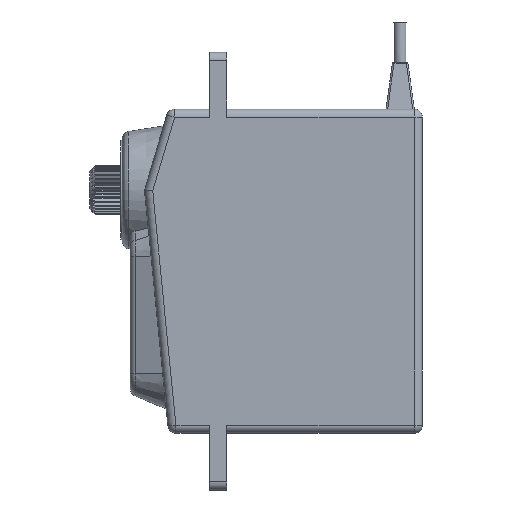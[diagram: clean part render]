
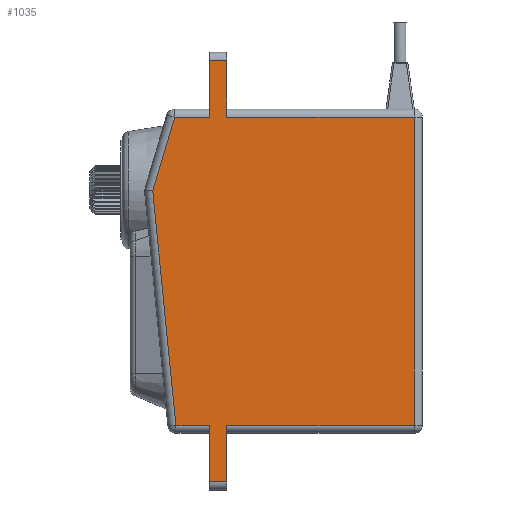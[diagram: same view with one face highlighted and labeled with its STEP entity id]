
A CAD part, left-side view. The second image highlights one B-rep face of the part: STEP entity #1035.
In plain terms, the highlighted planar face has unit normal (-1, 0, 0).
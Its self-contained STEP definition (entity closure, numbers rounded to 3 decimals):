
#1035=ADVANCED_FACE('',(#2113),#2115,.T.);
#2113=FACE_OUTER_BOUND('',#2114,.T.);
#2114=EDGE_LOOP('',(#3654,#3655,#3656,#3657,#3658,#3659,#3660,#3661,#3662,#3663,
#3664,#3665,#3666));
#2115=PLANE('',#2116);
#2116=AXIS2_PLACEMENT_3D('',#2117,#2118,#2119);
#2117=CARTESIAN_POINT('',(-10.,0.,-20.));
#2118=DIRECTION('',(-1.,0.,0.));
#2119=DIRECTION('',(0.,0.,1.));
#3654=ORIENTED_EDGE('',*,*,#4481,.T.);
#3655=ORIENTED_EDGE('',*,*,#4460,.T.);
#3656=ORIENTED_EDGE('',*,*,#4451,.T.);
#3657=ORIENTED_EDGE('',*,*,#4482,.F.);
#3658=ORIENTED_EDGE('',*,*,#4483,.F.);
#3659=ORIENTED_EDGE('',*,*,#4484,.F.);
#3660=ORIENTED_EDGE('',*,*,#4485,.T.);
#3661=ORIENTED_EDGE('',*,*,#4486,.F.);
#3662=ORIENTED_EDGE('',*,*,#4487,.T.);
#3663=ORIENTED_EDGE('',*,*,#4488,.T.);
#3664=ORIENTED_EDGE('',*,*,#4489,.T.);
#3665=ORIENTED_EDGE('',*,*,#4490,.T.);
#3666=ORIENTED_EDGE('',*,*,#4491,.F.);
#4451=EDGE_CURVE('',#5299,#5297,#5300,.T.);
#4460=EDGE_CURVE('',#5310,#5299,#5311,.T.);
#4481=EDGE_CURVE('',#5346,#5310,#5347,.T.);
#4482=EDGE_CURVE('',#5348,#5297,#5349,.T.);
#4483=EDGE_CURVE('',#5350,#5348,#5351,.T.);
#4484=EDGE_CURVE('',#5352,#5350,#5353,.T.);
#4485=EDGE_CURVE('',#5352,#5354,#5355,.T.);
#4486=EDGE_CURVE('',#5356,#5354,#5357,.T.);
#4487=EDGE_CURVE('',#5356,#5358,#5359,.T.);
#4488=EDGE_CURVE('',#5358,#5360,#5361,.T.);
#4489=EDGE_CURVE('',#5360,#5362,#5363,.T.);
#4490=EDGE_CURVE('',#5362,#5364,#5365,.T.);
#4491=EDGE_CURVE('',#5346,#5364,#5366,.T.);
#5297=VERTEX_POINT('',#7570);
#5299=VERTEX_POINT('',#7575);
#5300=LINE('',#7576,#7577);
#5310=VERTEX_POINT('',#7606);
#5311=LINE('',#7607,#7608);
#5346=VERTEX_POINT('',#7689);
#5347=LINE('',#7690,#7691);
#5348=VERTEX_POINT('',#7693);
#5349=LINE('',#7694,#7695);
#5350=VERTEX_POINT('',#7697);
#5351=LINE('',#7698,#7699);
#5352=VERTEX_POINT('',#7701);
#5353=LINE('',#7702,#7703);
#5354=VERTEX_POINT('',#7705);
#5355=LINE('',#7706,#7707);
#5356=VERTEX_POINT('',#7709);
#5357=LINE('',#7710,#7711);
#5358=VERTEX_POINT('',#7713);
#5359=LINE('',#7714,#7715);
#5360=VERTEX_POINT('',#7717);
#5361=LINE('',#7718,#7719);
#5362=VERTEX_POINT('',#7721);
#5363=LINE('',#7722,#7723);
#5364=VERTEX_POINT('',#7725);
#5365=LINE('',#7726,#7727);
#5366=LINE('',#7729,#7730);
#7570=CARTESIAN_POINT('',(-10.,30.424,-19.));
#7575=CARTESIAN_POINT('',(-10.,33.286,9.903));
#7576=CARTESIAN_POINT('',(-10.,33.286,9.903));
#7577=VECTOR('',#7578,1.);
#7578=DIRECTION('',(0.,-0.099,-0.995));
#7606=CARTESIAN_POINT('',(-10.,30.584,19.));
#7607=CARTESIAN_POINT('',(-10.,30.584,19.));
#7608=VECTOR('',#7609,1.);
#7609=DIRECTION('',(0.,0.285,-0.959));
#7689=CARTESIAN_POINT('',(-10.,26.26,19.));
#7690=CARTESIAN_POINT('',(-10.,26.26,19.));
#7691=VECTOR('',#7692,1.);
#7692=DIRECTION('',(0.,1.,0.));
#7693=CARTESIAN_POINT('',(-10.,26.26,-19.));
#7694=CARTESIAN_POINT('',(-10.,26.26,-19.));
#7695=VECTOR('',#7696,1.);
#7696=DIRECTION('',(0.,1.,0.));
#7697=CARTESIAN_POINT('',(-10.,26.26,-26.));
#7698=CARTESIAN_POINT('',(-10.,26.26,-26.));
#7699=VECTOR('',#7700,1.);
#7700=DIRECTION('',(0.,0.,1.));
#7701=CARTESIAN_POINT('',(-10.,24.16,-26.));
#7702=CARTESIAN_POINT('',(-10.,24.16,-26.));
#7703=VECTOR('',#7704,1.);
#7704=DIRECTION('',(0.,1.,0.));
#7705=CARTESIAN_POINT('',(-10.,24.16,-19.));
#7706=CARTESIAN_POINT('',(-10.,24.16,-26.));
#7707=VECTOR('',#7708,1.);
#7708=DIRECTION('',(0.,0.,1.));
#7709=CARTESIAN_POINT('',(-10.,1.,-19.));
#7710=CARTESIAN_POINT('',(-10.,1.,-19.));
#7711=VECTOR('',#7712,1.);
#7712=DIRECTION('',(0.,1.,0.));
#7713=CARTESIAN_POINT('',(-10.,1.,19.));
#7714=CARTESIAN_POINT('',(-10.,1.,-19.));
#7715=VECTOR('',#7716,1.);
#7716=DIRECTION('',(0.,0.,1.));
#7717=CARTESIAN_POINT('',(-10.,24.16,19.));
#7718=CARTESIAN_POINT('',(-10.,1.,19.));
#7719=VECTOR('',#7720,1.);
#7720=DIRECTION('',(0.,1.,0.));
#7721=CARTESIAN_POINT('',(-10.,24.16,26.));
#7722=CARTESIAN_POINT('',(-10.,24.16,19.));
#7723=VECTOR('',#7724,1.);
#7724=DIRECTION('',(0.,0.,1.));
#7725=CARTESIAN_POINT('',(-10.,26.26,26.));
#7726=CARTESIAN_POINT('',(-10.,24.16,26.));
#7727=VECTOR('',#7728,1.);
#7728=DIRECTION('',(0.,1.,0.));
#7729=CARTESIAN_POINT('',(-10.,26.26,19.));
#7730=VECTOR('',#7731,1.);
#7731=DIRECTION('',(0.,0.,1.));
